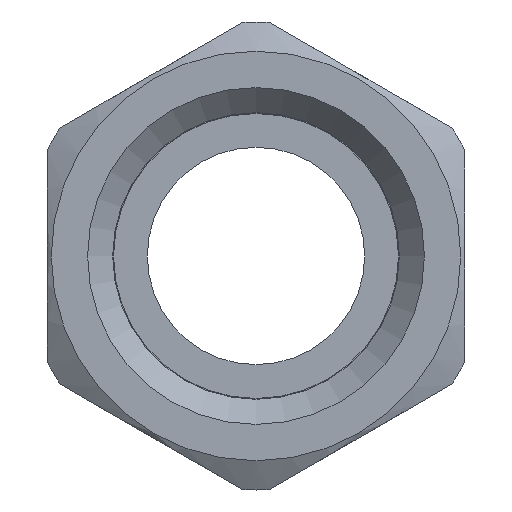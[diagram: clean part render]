
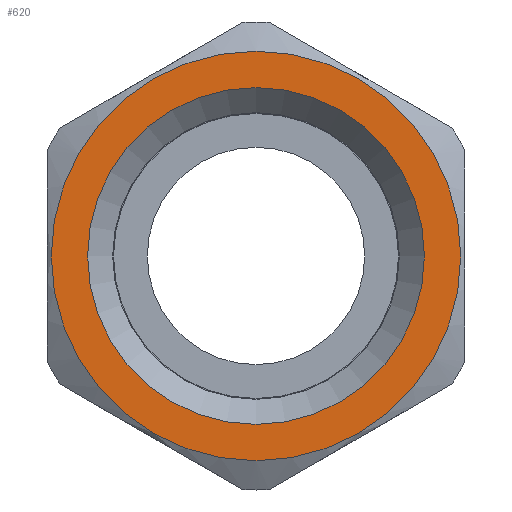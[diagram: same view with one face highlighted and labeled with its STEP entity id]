
A CAD part, front view. The second image highlights one B-rep face of the part: STEP entity #620.
In plain terms, the highlighted planar face has unit normal (0, -1, 0).
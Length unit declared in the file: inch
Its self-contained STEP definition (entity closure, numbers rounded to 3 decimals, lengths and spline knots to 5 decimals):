
#50=FACE_BOUND('',#124,.T.);
#59=PLANE('',#699);
#83=FACE_OUTER_BOUND('',#123,.T.);
#123=EDGE_LOOP('',(#483));
#124=EDGE_LOOP('',(#484));
#227=CIRCLE('',#698,0.2015);
#228=CIRCLE('',#700,0.245);
#281=VERTEX_POINT('',#1035);
#282=VERTEX_POINT('',#1039);
#356=EDGE_CURVE('',#281,#281,#227,.T.);
#357=EDGE_CURVE('',#282,#282,#228,.T.);
#483=ORIENTED_EDGE('',*,*,#357,.F.);
#484=ORIENTED_EDGE('',*,*,#356,.F.);
#620=ADVANCED_FACE('',(#83,#50),#59,.T.);
#698=AXIS2_PLACEMENT_3D('',#1037,#842,#843);
#699=AXIS2_PLACEMENT_3D('',#1038,#844,#845);
#700=AXIS2_PLACEMENT_3D('',#1040,#846,#847);
#842=DIRECTION('center_axis',(0.,-1.,0.));
#843=DIRECTION('ref_axis',(0.,0.,1.));
#844=DIRECTION('center_axis',(0.,-1.,0.));
#845=DIRECTION('ref_axis',(0.,0.,-1.));
#846=DIRECTION('center_axis',(0.,1.,0.));
#847=DIRECTION('ref_axis',(0.,0.,1.));
#1035=CARTESIAN_POINT('',(0.,-0.5,-0.2015));
#1037=CARTESIAN_POINT('Origin',(0.,-0.5,0.));
#1038=CARTESIAN_POINT('Origin',(0.,-0.5,-0.1715));
#1039=CARTESIAN_POINT('',(0.,-0.5,-0.245));
#1040=CARTESIAN_POINT('Origin',(0.,-0.5,0.));
